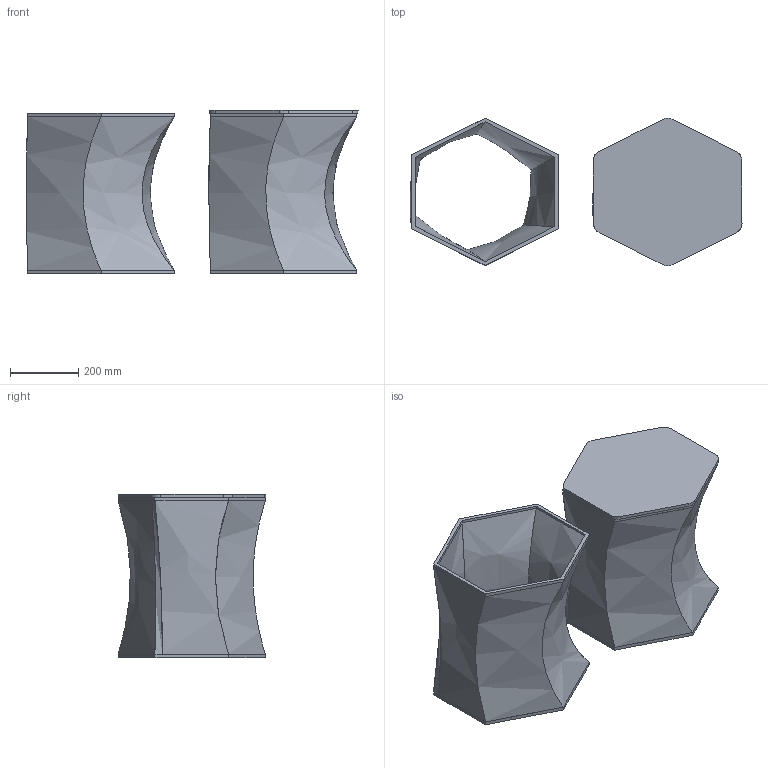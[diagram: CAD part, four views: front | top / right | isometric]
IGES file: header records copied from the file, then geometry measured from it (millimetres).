
Global section: file name: C:\Users\colombo_c\Desktop\Danese\Sito\3D mancanti\Petronio\Petronio.igs; native system: Rhinoceros ( Apr 16 2024 ); preprocessor: Trout Lake IGES 012 Apr 16 2024; date: 250626.123922; units: millimetre
Bounding box: 973.77 x 433.41 x 479.09 mm (x, y, z)
Surface area: 2662276.1 mm2 (no closed solid volume)
Topology: 0 solids, 0 shells, 107 faces, 692 edges, 692 vertices
Faces by surface type: bspline 107
